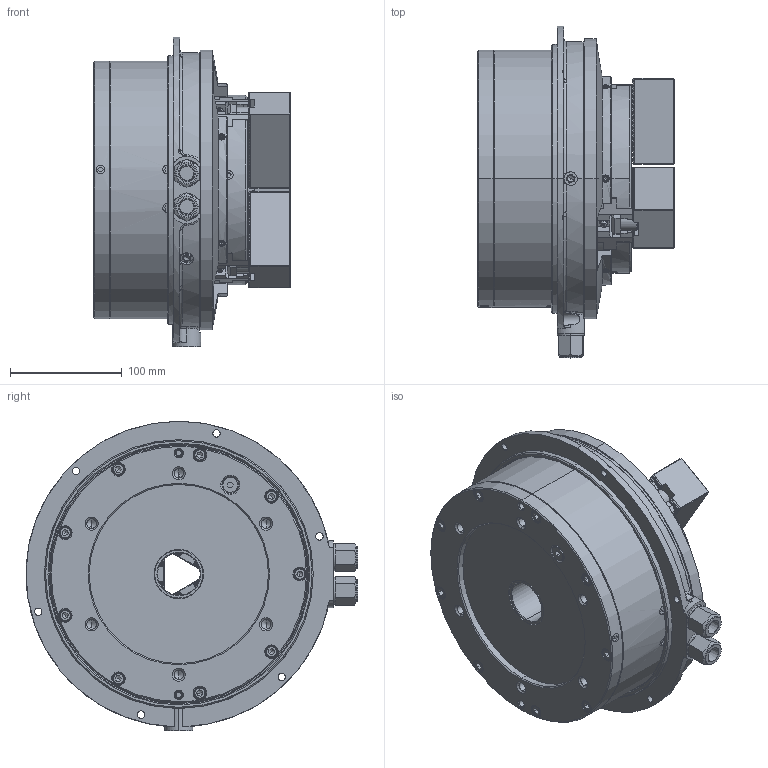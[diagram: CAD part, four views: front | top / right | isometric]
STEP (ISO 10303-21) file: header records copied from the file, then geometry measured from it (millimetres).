
FILE_DESCRIPTION (( 'STEP AP214' ), '1' );
FILE_NAME ('DEV-UVE160K-HOL.STEP', '2024-10-02T07:38:04', ( '' ), ( '' ), 'SwSTEP 2.0', 'SolidWorks 2022', '' );
FILE_SCHEMA (( 'AUTOMOTIVE_DESIGN' ));
Length unit declared in the file: millimetre
Products named in the file (6): DEV-UVE160K-HOL; Copy of 61P853952^DEV-UVE160K-クミタテ; Copy of 0030112030^DEV-UVE160K-クミタテ; Copy of 61P401345^DEV-UVE160K-クミタテ; Part2^DEV-UVE160K-クミタテ; Copy of 0693000003^DEV-UVE160K-クミタテ
Assembly tree (18 placements, depth 2):
  DEV-UVE160K-HOL
    Copy of 61P853952^DEV-UVE160K-クミタテ  x3
    Copy of 61P401345^DEV-UVE160K-クミタテ  x6
    Copy of 0030112030^DEV-UVE160K-クミタテ  x6
    Copy of 0693000003^DEV-UVE160K-クミタテ  x2
    Part2^DEV-UVE160K-クミタテ
Bounding box: 175.45 x 296.49 x 276.5 mm (x, y, z)
Volume: 339135.9 mm3; surface area: 416734.7 mm2
Topology: 46 solids, 47 shells, 4909 faces, 13621 edges, 8868 vertices
Faces by surface type: plane 2820, cylinder 1273, cone 473, bspline 272, torus 51, sphere 20
Entity records: 128622 total; most frequent: CARTESIAN_POINT 40378, ORIENTED_EDGE 19968, DIRECTION 16011, EDGE_CURVE 9984, VERTEX_POINT 6538, VECTOR 6511, LINE 6511, AXIS2_PLACEMENT_3D 4750
